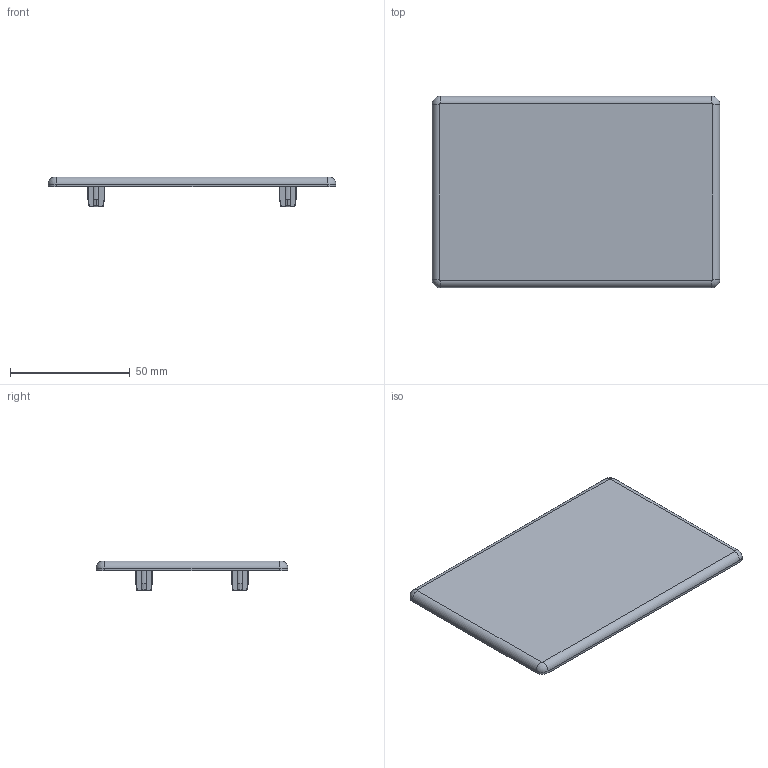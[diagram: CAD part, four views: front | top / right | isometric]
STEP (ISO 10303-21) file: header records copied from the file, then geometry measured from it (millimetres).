
FILE_DESCRIPTION (( 'STEP AP203' ), '1' );
FILE_NAME ('0108AK1208.STEP', '2024-03-07T10:04:12', ( 'Windows-Benutzer' ), ( '' ), 'SwSTEP 2.0', 'SolidWorks 2023', '' );
FILE_SCHEMA (( 'CONFIG_CONTROL_DESIGN' ));
Length unit declared in the file: millimetre
Products named in the file (1): 0108AK1208
Bounding box: 120 x 80 x 12.5 mm (x, y, z)
Volume: 30024.1 mm3; surface area: 21579.9 mm2
Topology: 1 solids, 1 shells, 119 faces, 326 edges, 214 vertices
Faces by surface type: plane 47, cylinder 28, bspline 20, cone 20, torus 4
Entity records: 4195 total; most frequent: CARTESIAN_POINT 1276, ORIENTED_EDGE 652, DIRECTION 532, EDGE_CURVE 326, VERTEX_POINT 214, AXIS2_PLACEMENT_3D 190, VECTOR 152, LINE 152
